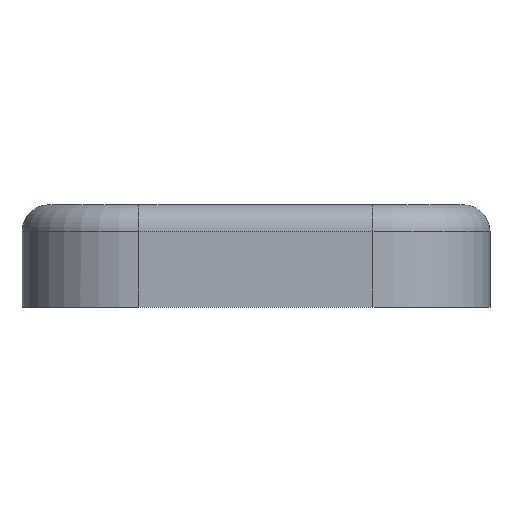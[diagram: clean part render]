
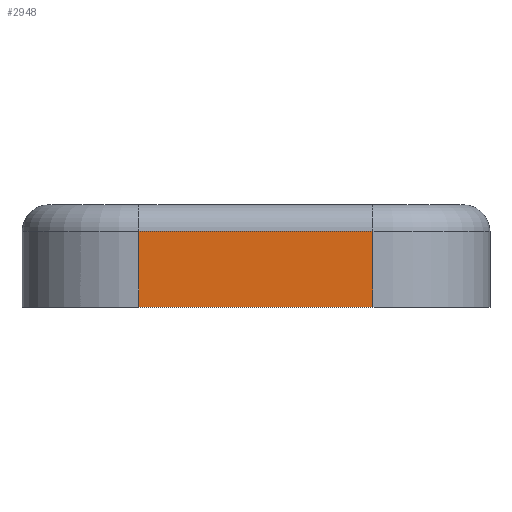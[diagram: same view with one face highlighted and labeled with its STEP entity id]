
A CAD part, front view. The second image highlights one B-rep face of the part: STEP entity #2948.
In plain terms, the highlighted planar face has unit normal (0, -1, 0).
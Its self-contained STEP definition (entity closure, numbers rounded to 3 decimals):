
#140 = CYLINDRICAL_SURFACE('',#141,5.);
#141 = AXIS2_PLACEMENT_3D('',#142,#143,#144);
#142 = CARTESIAN_POINT('',(22.,-63.,6.75));
#143 = DIRECTION('',(-1.,-0.,-0.));
#144 = DIRECTION('',(0.,-1.,0.));
#861 = VERTEX_POINT('',#862);
#862 = CARTESIAN_POINT('',(-22.,-68.,6.75));
#877 = CYLINDRICAL_SURFACE('',#878,22.);
#878 = AXIS2_PLACEMENT_3D('',#879,#880,#881);
#879 = CARTESIAN_POINT('',(-22.,-46.,-12.75));
#880 = DIRECTION('',(0.,0.,1.));
#881 = DIRECTION('',(-1.,-0.,0.));
#915 = VERTEX_POINT('',#916);
#916 = CARTESIAN_POINT('',(22.,-68.,6.75));
#940 = EDGE_CURVE('',#915,#861,#941,.T.);
#941 = SURFACE_CURVE('',#942,(#946,#953),.PCURVE_S1.);
#942 = LINE('',#943,#944);
#943 = CARTESIAN_POINT('',(22.,-68.,6.75));
#944 = VECTOR('',#945,1.);
#945 = DIRECTION('',(-1.,-0.,-0.));
#946 = PCURVE('',#140,#947);
#947 = DEFINITIONAL_REPRESENTATION('',(#948),#952);
#948 = LINE('',#949,#950);
#949 = CARTESIAN_POINT('',(0.,0.));
#950 = VECTOR('',#951,1.);
#951 = DIRECTION('',(0.,1.));
#952 = ( GEOMETRIC_REPRESENTATION_CONTEXT(2) 
PARAMETRIC_REPRESENTATION_CONTEXT() REPRESENTATION_CONTEXT('2D SPACE',''
  ) );
#953 = PCURVE('',#954,#959);
#954 = PLANE('',#955);
#955 = AXIS2_PLACEMENT_3D('',#956,#957,#958);
#956 = CARTESIAN_POINT('',(-44.,-68.,-12.75));
#957 = DIRECTION('',(0.,1.,0.));
#958 = DIRECTION('',(0.,-0.,1.));
#959 = DEFINITIONAL_REPRESENTATION('',(#960),#964);
#960 = LINE('',#961,#962);
#961 = CARTESIAN_POINT('',(19.5,66.));
#962 = VECTOR('',#963,1.);
#963 = DIRECTION('',(0.,-1.));
#964 = ( GEOMETRIC_REPRESENTATION_CONTEXT(2) 
PARAMETRIC_REPRESENTATION_CONTEXT() REPRESENTATION_CONTEXT('2D SPACE',''
  ) );
#988 = CYLINDRICAL_SURFACE('',#989,22.);
#989 = AXIS2_PLACEMENT_3D('',#990,#991,#992);
#990 = CARTESIAN_POINT('',(22.,-46.,-12.75));
#991 = DIRECTION('',(0.,0.,1.));
#992 = DIRECTION('',(1.,0.,-0.));
#2436 = PLANE('',#2437);
#2437 = AXIS2_PLACEMENT_3D('',#2438,#2439,#2440);
#2438 = CARTESIAN_POINT('',(-90.,-110.,-7.5));
#2439 = DIRECTION('',(0.,0.,1.));
#2440 = DIRECTION('',(1.,0.,-0.));
#2904 = VERTEX_POINT('',#2905);
#2905 = CARTESIAN_POINT('',(-22.,-68.,-7.5));
#2927 = EDGE_CURVE('',#2904,#861,#2928,.T.);
#2928 = SURFACE_CURVE('',#2929,(#2933,#2940),.PCURVE_S1.);
#2929 = LINE('',#2930,#2931);
#2930 = CARTESIAN_POINT('',(-22.,-68.,-12.75));
#2931 = VECTOR('',#2932,1.);
#2932 = DIRECTION('',(0.,0.,1.));
#2933 = PCURVE('',#877,#2934);
#2934 = DEFINITIONAL_REPRESENTATION('',(#2935),#2939);
#2935 = LINE('',#2936,#2937);
#2936 = CARTESIAN_POINT('',(1.571,0.));
#2937 = VECTOR('',#2938,1.);
#2938 = DIRECTION('',(0.,1.));
#2939 = ( GEOMETRIC_REPRESENTATION_CONTEXT(2) 
PARAMETRIC_REPRESENTATION_CONTEXT() REPRESENTATION_CONTEXT('2D SPACE',''
  ) );
#2940 = PCURVE('',#954,#2941);
#2941 = DEFINITIONAL_REPRESENTATION('',(#2942),#2946);
#2942 = LINE('',#2943,#2944);
#2943 = CARTESIAN_POINT('',(0.,22.));
#2944 = VECTOR('',#2945,1.);
#2945 = DIRECTION('',(1.,0.));
#2946 = ( GEOMETRIC_REPRESENTATION_CONTEXT(2) 
PARAMETRIC_REPRESENTATION_CONTEXT() REPRESENTATION_CONTEXT('2D SPACE',''
  ) );
#2948 = ADVANCED_FACE('',(#2949),#954,.F.);
#2949 = FACE_BOUND('',#2950,.F.);
#2950 = EDGE_LOOP('',(#2951,#2974,#2975,#2976));
#2951 = ORIENTED_EDGE('',*,*,#2952,.F.);
#2952 = EDGE_CURVE('',#2904,#2953,#2955,.T.);
#2953 = VERTEX_POINT('',#2954);
#2954 = CARTESIAN_POINT('',(22.,-68.,-7.5));
#2955 = SURFACE_CURVE('',#2956,(#2960,#2967),.PCURVE_S1.);
#2956 = LINE('',#2957,#2958);
#2957 = CARTESIAN_POINT('',(-67.,-68.,-7.5));
#2958 = VECTOR('',#2959,1.);
#2959 = DIRECTION('',(1.,0.,0.));
#2960 = PCURVE('',#954,#2961);
#2961 = DEFINITIONAL_REPRESENTATION('',(#2962),#2966);
#2962 = LINE('',#2963,#2964);
#2963 = CARTESIAN_POINT('',(5.25,-23.));
#2964 = VECTOR('',#2965,1.);
#2965 = DIRECTION('',(0.,1.));
#2966 = ( GEOMETRIC_REPRESENTATION_CONTEXT(2) 
PARAMETRIC_REPRESENTATION_CONTEXT() REPRESENTATION_CONTEXT('2D SPACE',''
  ) );
#2967 = PCURVE('',#2436,#2968);
#2968 = DEFINITIONAL_REPRESENTATION('',(#2969),#2973);
#2969 = LINE('',#2970,#2971);
#2970 = CARTESIAN_POINT('',(23.,42.));
#2971 = VECTOR('',#2972,1.);
#2972 = DIRECTION('',(1.,0.));
#2973 = ( GEOMETRIC_REPRESENTATION_CONTEXT(2) 
PARAMETRIC_REPRESENTATION_CONTEXT() REPRESENTATION_CONTEXT('2D SPACE',''
  ) );
#2974 = ORIENTED_EDGE('',*,*,#2927,.T.);
#2975 = ORIENTED_EDGE('',*,*,#940,.F.);
#2976 = ORIENTED_EDGE('',*,*,#2977,.F.);
#2977 = EDGE_CURVE('',#2953,#915,#2978,.T.);
#2978 = SURFACE_CURVE('',#2979,(#2983,#2990),.PCURVE_S1.);
#2979 = LINE('',#2980,#2981);
#2980 = CARTESIAN_POINT('',(22.,-68.,-12.75));
#2981 = VECTOR('',#2982,1.);
#2982 = DIRECTION('',(0.,0.,1.));
#2983 = PCURVE('',#954,#2984);
#2984 = DEFINITIONAL_REPRESENTATION('',(#2985),#2989);
#2985 = LINE('',#2986,#2987);
#2986 = CARTESIAN_POINT('',(0.,66.));
#2987 = VECTOR('',#2988,1.);
#2988 = DIRECTION('',(1.,0.));
#2989 = ( GEOMETRIC_REPRESENTATION_CONTEXT(2) 
PARAMETRIC_REPRESENTATION_CONTEXT() REPRESENTATION_CONTEXT('2D SPACE',''
  ) );
#2990 = PCURVE('',#988,#2991);
#2991 = DEFINITIONAL_REPRESENTATION('',(#2992),#2996);
#2992 = LINE('',#2993,#2994);
#2993 = CARTESIAN_POINT('',(4.712,0.));
#2994 = VECTOR('',#2995,1.);
#2995 = DIRECTION('',(-0.,1.));
#2996 = ( GEOMETRIC_REPRESENTATION_CONTEXT(2) 
PARAMETRIC_REPRESENTATION_CONTEXT() REPRESENTATION_CONTEXT('2D SPACE',''
  ) );
